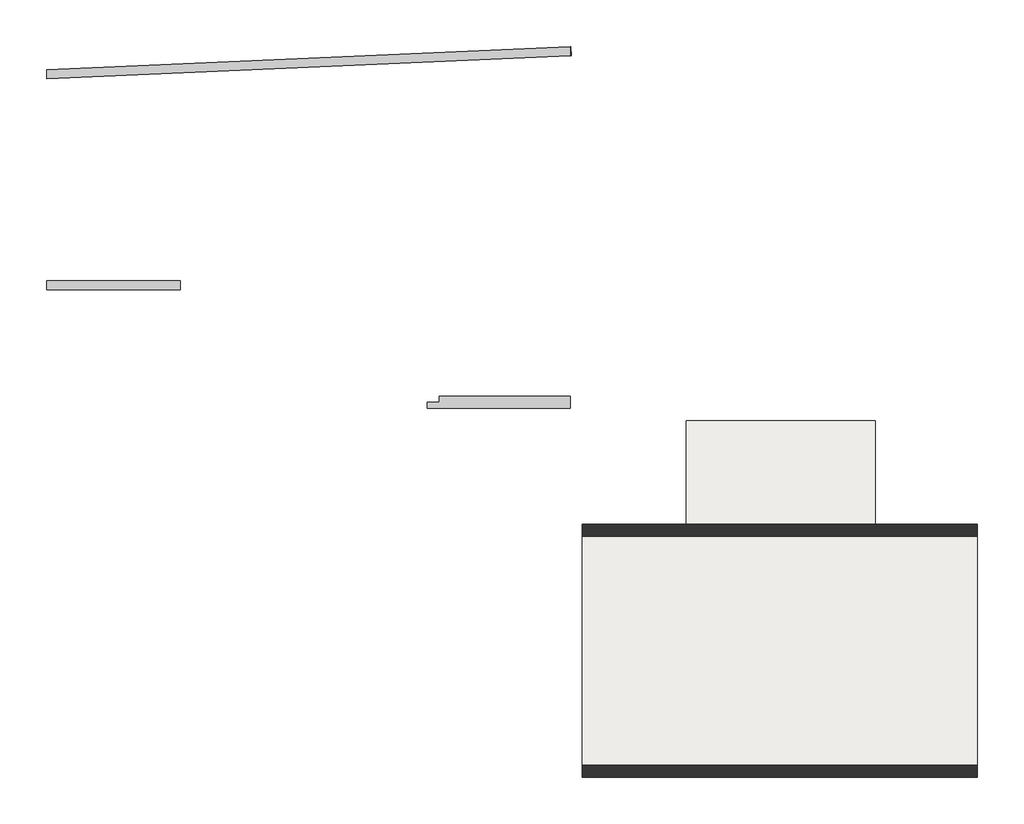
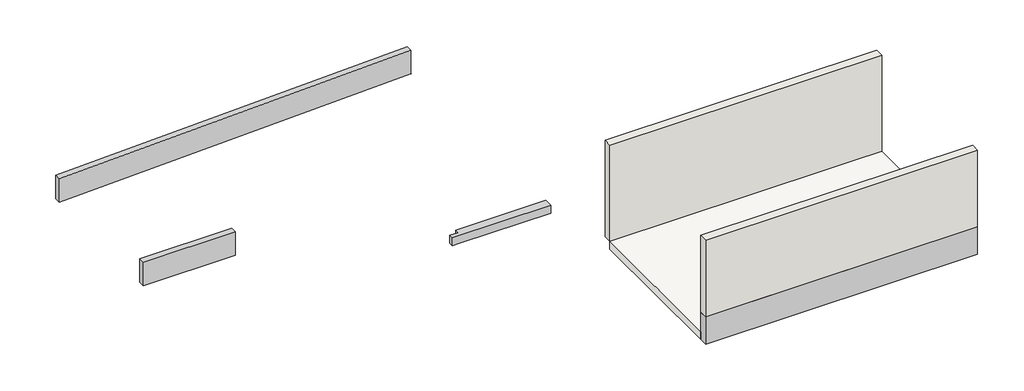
# One storey: 4 beams, 2 slabs, 2 walls.
"""IFC4 building model written with IfcOpenShell, lengths in millimetres."""

from ifc_helpers import new_model, si_unit, frame, origin, place, context, project, spatial, polyline, outline, extrude, faceted_brep, element, save

model = new_model("IFC4")

# Units and contexts
model_context = context("Model", 3, world=origin())
ifc_project = project(units=[si_unit("LENGTHUNIT", "METRE", prefix="MILLI")], contexts=[model_context])

# Site, building, storey
site = spatial("IfcSite", under=ifc_project)
building = spatial("IfcBuilding", under=site)
storey = spatial("IfcBuildingStorey", under=building, Name="dalle étage", Elevation=3100.0)

# Beams
placement = place(None, origin())
element("IfcBeam", 1, ObjectType="Poutre rectangulaire - Béton : Acrotère 15 x 60", at=placement, inside=storey, context=model_context, shape_type="Brep", body=[
    faceted_brep([(-5870.7792845, 14615.4006447, 2600.0), (-5877.3405395, 14765.2570758, 2600.0), (-5877.3405395, 14765.2570758, 2601.0), (-5870.7792845, 14615.4006447, 2601.0), (-14599.5383156, 14233.2240998, 3200.0), (-14599.5383156, 14233.2240998, 2800.0), (-14599.5383156, 14233.2240998, 2600.0), (-5886.5383156, 14614.7106575, 2600.0), (-5886.5383156, 14614.7106575, 2601.0), (-5886.5383156, 14614.7106575, 2800.0), (-5886.5383156, 14614.7106575, 3200.0), (-14599.5383156, 14383.3678063, 2600.0), (-5886.5383156, 14764.854364, 2600.0), (-14599.5383156, 14383.3678063, 3200.0), (-5886.5383156, 14764.854364, 3200.0), (-5886.5383156, 14764.854364, 2601.0)], [[[0, 1, 2, 3]], [[4, 5, 6, 7, 0, 3, 8, 9, 10]], [[1, 0, 7, 6, 11, 12]], [[1, 12, 11, 13, 14, 15, 2]], [[13, 4, 10, 14]], [[11, 6, 5, 4, 13]], [[8, 15, 14, 10, 9]], [[15, 8, 3, 2]]]),
])
element("IfcBeam", 2, ObjectType="Poutre rectangulaire - Béton : Acrotère 15 x 60", at=placement, inside=storey, context=model_context, shape_type="Brep", body=[
    faceted_brep([(-12375.6883156, 10866.835585, 3200.0), (-12375.6883156, 10716.835585, 3200.0), (-12375.6883156, 10716.835585, 2800.0), (-12375.6883156, 10716.835585, 2600.0), (-12375.6883156, 10866.6589873, 2600.0), (-12375.6883156, 10866.6589873, 2800.0), (-12375.6883156, 10866.835585, 2800.0), (-14599.5383156, 10716.835585, 3200.0), (-14599.5383156, 10716.835585, 2600.0), (-14599.5383156, 10866.6589873, 2600.0), (-12675.5383156, 10866.6589873, 2600.0), (-14599.5383156, 10866.835585, 3200.0), (-14599.5383156, 10866.835585, 2800.0), (-14599.5383156, 10866.6589873, 2800.0)], [[[0, 1, 2, 3, 4, 5, 6]], [[7, 8, 3, 2, 1]], [[3, 8, 9, 10, 4]], [[11, 0, 6, 12]], [[1, 0, 11, 7]], [[8, 7, 11, 12, 13, 9]], [[5, 13, 12, 6]], [[13, 5, 4, 10, 9]]]),
])
element("IfcBeam", 3, ObjectType="Poutre rectangulaire - Béton : BN3 dalle ep20cm  20 x 20", at=placement, inside=storey, context=model_context, shape_type="Brep", body=[
    faceted_brep([(-5886.5383156, 8746.6589873, 2600.0), (-5886.5383156, 8746.6589873, 2800.0), (-8265.5383156, 8746.6589873, 2800.0), (-8265.5383156, 8746.6589873, 2600.0), (-8065.5383156, 8746.6589873, 2600.0), (-5886.5383156, 8946.6589873, 2600.0), (-8265.5383156, 8846.6589873, 2600.0), (-8065.5383156, 8846.6589873, 2600.0), (-8065.5383156, 8946.6589873, 2600.0), (-5886.5383156, 8946.6589873, 2800.0), (-8065.5383156, 8946.6589873, 2800.0), (-8065.5383156, 8846.6589873, 2800.0), (-8265.5383156, 8846.6589873, 2800.0)], [[[0, 1, 2, 3, 4]], [[5, 0, 4, 3, 6, 7, 8]], [[9, 5, 8, 10]], [[1, 9, 10, 11, 12, 2]], [[1, 0, 5, 9]], [[3, 2, 12, 6]], [[7, 11, 10, 8]], [[11, 7, 6, 12]]]),
])
element("IfcBeam", 4, ObjectType="Poutre rectangulaire - Béton : Poutre 20 x 70", at=placement, inside=storey, context=model_context, shape_type="Brep", body=[
    faceted_brep([(884.4616844, 2609.6589872, 2900.0), (884.4616844, 2609.6589872, 3600.0), (-5686.5383156, 2609.6589872, 3600.0), (-5686.5383156, 2609.6589872, 2900.0), (884.4616844, 2809.6589872, 2900.0), (-5686.5383156, 2809.6589872, 2900.0), (-5685.5383156, 2809.6589872, 2900.0), (884.4616844, 2809.6589872, 3600.0), (884.4616844, 2809.6589872, 3100.0), (-5686.5383156, 2809.6589872, 3600.0)], [[[0, 1, 2, 3]], [[4, 0, 3, 5, 6]], [[7, 8, 4, 6, 5, 9]], [[1, 7, 9, 2]], [[1, 0, 4, 8, 7]], [[3, 2, 9, 5]]]),
])

# Slabs
element("IfcSlab", 5, ObjectType="Dalle en béton - 20cm", at=placement, inside=storey, context=model_context, shape_type="SweptSolid", body=[
    extrude(outline(polyline([(884.4616844, 6616.6589873), (884.4616844, 2809.6589872), (-5685.5383156, 2809.6589872), (-5685.5383156, 6616.6589873), (884.4616844, 6616.6589873)])), frame((0.0, 0.0, 2900.0), z_axis=(0.0, 0.0, 1.0), x_axis=(1.0, 0.0, 0.0)), (0.0, 0.0, 1.0), 200.0),
])
element("IfcSlab", 6, ObjectType="Dalle en béton - 20cm", at=placement, inside=storey, context=model_context, shape_type="SweptSolid", body=[
    extrude(outline(polyline([(-815.5383156, 8541.6589873), (-815.5383156, 6816.6589873), (-3955.5383156, 6816.6589873), (-3955.5383156, 8541.6589873), (-815.5383156, 8541.6589873)])), frame((0.0, 0.0, 2900.0), z_axis=(0.0, 0.0, 1.0), x_axis=(1.0, 0.0, 0.0)), (0.0, 0.0, 1.0), 200.0),
])

# Walls
element("IfcWall", 7, ObjectType="Ext. BBM 20 cm", at=placement, inside=storey, context=model_context, shape_type="SweptSolid", body=[
    extrude(outline(polyline([(-5685.5383156, 6816.6589873), (884.4616844, 6816.6589873), (884.4616844, 6616.6589873), (-5685.5383156, 6616.6589873), (-5685.5383156, 6816.6589873)])), frame((0.0, 0.0, 3100.0), z_axis=(0.0, 0.0, 1.0), x_axis=(1.0, 0.0, 0.0)), (0.0, 0.0, 1.0), 2460.0),
])
element("IfcWall", 8, ObjectType="Ext. BBM 20 cm", at=placement, inside=storey, context=model_context, shape_type="SweptSolid", body=[
    extrude(outline(polyline([(-5686.5383156, 2809.6589872), (884.4616844, 2809.6589872), (884.4616844, 2609.6589872), (-5686.5383156, 2609.6589872), (-5686.5383156, 2809.6589872)])), frame((0.0, 0.0, 3600.0), z_axis=(0.0, 0.0, 1.0), x_axis=(1.0, 0.0, 0.0)), (0.0, 0.0, 1.0), 1960.0),
])

save(model, "model.ifc")
